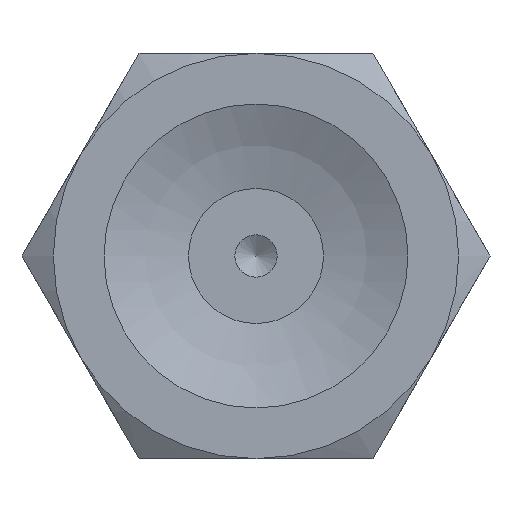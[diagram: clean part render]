
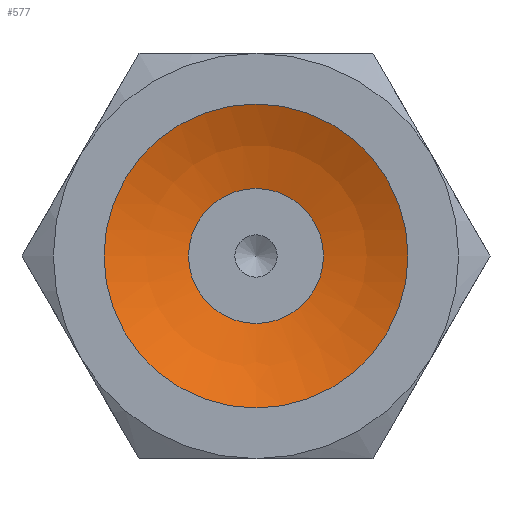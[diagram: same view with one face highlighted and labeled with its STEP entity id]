
A CAD part, front view. The second image highlights one B-rep face of the part: STEP entity #577.
In plain terms, the highlighted spherical face has radius 10.203 mm.
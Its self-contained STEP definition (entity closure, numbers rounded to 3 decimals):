
#577=ADVANCED_FACE('',(#879,#880),#881,.F.);
#879=FACE_OUTER_BOUND('',#1194,.T.);
#880=FACE_OUTER_BOUND('',#1195,.T.);
#881=SPHERICAL_SURFACE('',#1196,10.203);
#1194=EDGE_LOOP('',(#2018));
#1195=EDGE_LOOP('',(#2019));
#1196=AXIS2_PLACEMENT_3D('',#2020,#2021,#2022);
#2018=ORIENTED_EDGE('',*,*,#2275,.T.);
#2019=ORIENTED_EDGE('',*,*,#2274,.F.);
#2020=CARTESIAN_POINT('',(0.,-9.157,0.));
#2021=DIRECTION('',(0.0,-1.0,0.));
#2022=DIRECTION('',(1.0,0.0,0.0));
#2274=EDGE_CURVE('',#2649,#2649,#2650,.T.);
#2275=EDGE_CURVE('',#2651,#2651,#2652,.T.);
#2649=VERTEX_POINT('',#3631);
#2650=CIRCLE('',#3632,2.);
#2651=VERTEX_POINT('',#3633);
#2652=CIRCLE('',#3634,4.5);
#3631=CARTESIAN_POINT('',(0.0,0.848,-2.));
#3632=AXIS2_PLACEMENT_3D('',#3961,#3962,#3963);
#3633=CARTESIAN_POINT('',(0.0,0.,-4.5));
#3634=AXIS2_PLACEMENT_3D('',#3964,#3965,#3966);
#3961=CARTESIAN_POINT('',(0.0,0.848,0.0));
#3962=DIRECTION('',(0.0,-1.0,0.));
#3963=DIRECTION('',(0.0,0.,-1.0));
#3964=CARTESIAN_POINT('',(0.0,0.,0.0));
#3965=DIRECTION('',(0.0,-1.0,0.));
#3966=DIRECTION('',(0.0,0.,-1.0));
